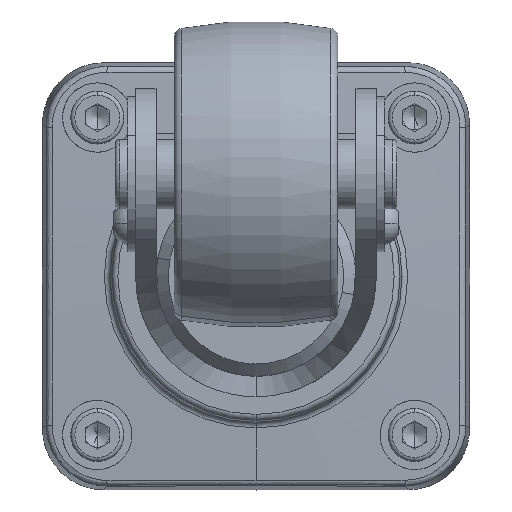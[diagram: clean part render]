
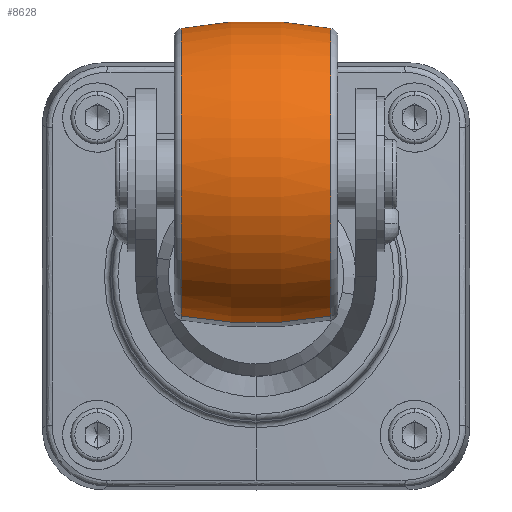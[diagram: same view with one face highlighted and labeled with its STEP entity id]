
A CAD part, front view. The second image highlights one B-rep face of the part: STEP entity #8628.
In plain terms, the highlighted toroidal (fillet/blend) face has major radius 62.5 mm and minor radius 100 mm.
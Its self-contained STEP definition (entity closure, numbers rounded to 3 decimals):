
#189 = CARTESIAN_POINT ( 'NONE',  ( -26.739, -60.298, 133.302 ) ) ;
#628 = CARTESIAN_POINT ( 'NONE',  ( 9.996, -51.686, 168.05 ) ) ;
#762 = CARTESIAN_POINT ( 'NONE',  ( 9.996, -60.298, 133.302 ) ) ;
#1117 = CARTESIAN_POINT ( 'NONE',  ( -8.372, -45.263, 193.967 ) ) ;
#1723 = CARTESIAN_POINT ( 'NONE',  ( -8.372, -60.298, 133.302 ) ) ;
#3769 = AXIS2_PLACEMENT_3D ( 'NONE', #1723, #15679, #4569 ) ;
#3796 = AXIS2_PLACEMENT_3D ( 'NONE', #189, #10164, #12920 ) ;
#4569 = DIRECTION ( 'NONE',  ( 0., 0.241, 0.971 ) ) ;
#4749 = EDGE_CURVE ( 'NONE', #10478, #6780, #10366, .T. ) ;
#4825 = CARTESIAN_POINT ( 'NONE',  ( -26.739, -51.686, 168.05 ) ) ;
#5194 = CIRCLE ( 'NONE', #17117, 100. ) ;
#5369 = DIRECTION ( 'NONE',  ( 0., 0.971, -0.241 ) ) ;
#5785 = ORIENTED_EDGE ( 'NONE', *, *, #16619, .T. ) ;
#5841 = ORIENTED_EDGE ( 'NONE', *, *, #10226, .T. ) ;
#6780 = VERTEX_POINT ( 'NONE', #12509 ) ;
#6809 = DIRECTION ( 'NONE',  ( 0., 0.241, 0.971 ) ) ;
#7116 = CIRCLE ( 'NONE', #3796, 35.799 ) ;
#7223 = FACE_OUTER_BOUND ( 'NONE', #17701, .T. ) ;
#7360 = VERTEX_POINT ( 'NONE', #628 ) ;
#8628 = ADVANCED_FACE ( 'NONE', ( #7223 ), #15335, .T. ) ;
#8640 = ORIENTED_EDGE ( 'NONE', *, *, #17509, .T. ) ;
#9019 = CARTESIAN_POINT ( 'NONE',  ( 9.996, -68.91, 98.555 ) ) ;
#9756 = VERTEX_POINT ( 'NONE', #4825 ) ;
#10164 = DIRECTION ( 'NONE',  ( 1., 0., 0. ) ) ;
#10226 = EDGE_CURVE ( 'NONE', #7360, #9756, #5194, .T. ) ;
#10366 = CIRCLE ( 'NONE', #12337, 100. ) ;
#10478 = VERTEX_POINT ( 'NONE', #9019 ) ;
#10811 = DIRECTION ( 'NONE',  ( 0., -0.241, -0.971 ) ) ;
#11044 = CIRCLE ( 'NONE', #13442, 35.799 ) ;
#12272 = CARTESIAN_POINT ( 'NONE',  ( -8.372, -75.334, 72.638 ) ) ;
#12337 = AXIS2_PLACEMENT_3D ( 'NONE', #1117, #5369, #6809 ) ;
#12509 = CARTESIAN_POINT ( 'NONE',  ( -26.739, -68.91, 98.555 ) ) ;
#12920 = DIRECTION ( 'NONE',  ( 0., -0.241, -0.971 ) ) ;
#13055 = ORIENTED_EDGE ( 'NONE', *, *, #4749, .F. ) ;
#13442 = AXIS2_PLACEMENT_3D ( 'NONE', #762, #14839, #16264 ) ;
#14839 = DIRECTION ( 'NONE',  ( -1., 0., 0. ) ) ;
#15335 = TOROIDAL_SURFACE ( 'NONE', #3769, -62.5, 100. ) ;
#15679 = DIRECTION ( 'NONE',  ( -1., 0., 0. ) ) ;
#16264 = DIRECTION ( 'NONE',  ( 0., 0.241, 0.971 ) ) ;
#16587 = DIRECTION ( 'NONE',  ( 0., -0.971, 0.241 ) ) ;
#16619 = EDGE_CURVE ( 'NONE', #10478, #7360, #11044, .T. ) ;
#17117 = AXIS2_PLACEMENT_3D ( 'NONE', #12272, #16587, #10811 ) ;
#17509 = EDGE_CURVE ( 'NONE', #9756, #6780, #7116, .T. ) ;
#17701 = EDGE_LOOP ( 'NONE', ( #13055, #5785, #5841, #8640 ) ) ;
